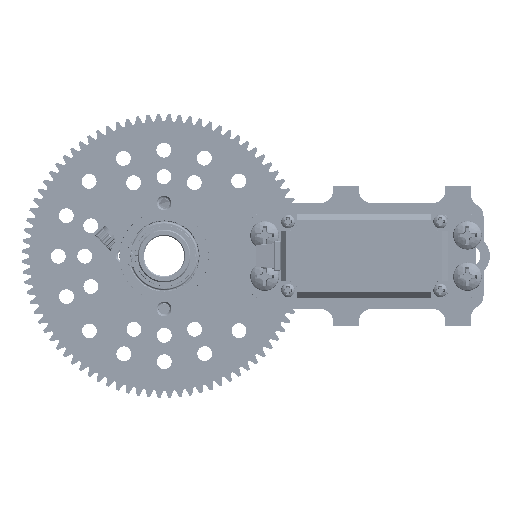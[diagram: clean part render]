
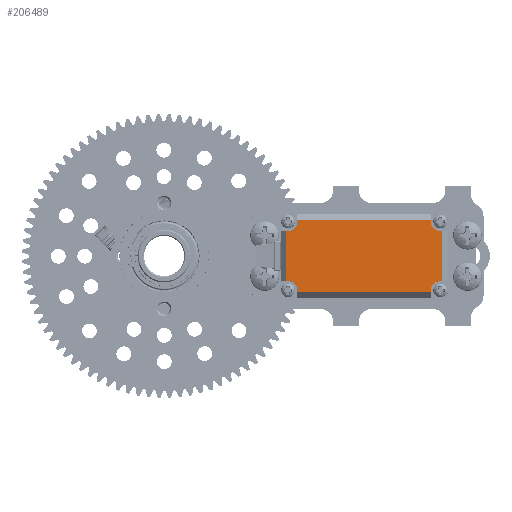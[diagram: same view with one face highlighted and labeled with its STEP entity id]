
A CAD part, front view. The second image highlights one B-rep face of the part: STEP entity #206489.
In plain terms, the highlighted planar face has unit normal (0, -1, 0).
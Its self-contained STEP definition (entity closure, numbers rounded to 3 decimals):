
#563 = CARTESIAN_POINT ( 'NONE',  ( -0.453, -29.566, -21.417 ) ) ;
#1771 = DIRECTION ( 'NONE',  ( 1., 0., 0. ) ) ;
#1969 = EDGE_CURVE ( 'NONE', #152878, #310404, #12326, .T. ) ;
#7502 = CARTESIAN_POINT ( 'NONE',  ( -0.453, -29.566, -12.7 ) ) ;
#8333 = CARTESIAN_POINT ( 'NONE',  ( 15.567, -29.566, -3.983 ) ) ;
#12287 = LINE ( 'NONE', #148633, #121570 ) ;
#12326 = LINE ( 'NONE', #122662, #177847 ) ;
#13602 = LINE ( 'NONE', #563, #228001 ) ;
#16187 = CARTESIAN_POINT ( 'NONE',  ( 17.822, -29.566, -18.7 ) ) ;
#18797 = ORIENTED_EDGE ( 'NONE', *, *, #125637, .T. ) ;
#22323 = VERTEX_POINT ( 'NONE', #204426 ) ;
#23940 = CARTESIAN_POINT ( 'NONE',  ( -16.473, -29.566, -12.7 ) ) ;
#24247 = EDGE_CURVE ( 'NONE', #310404, #226598, #89065, .T. ) ;
#24530 = CARTESIAN_POINT ( 'NONE',  ( 15.567, -29.566, -20.955 ) ) ;
#26956 = CARTESIAN_POINT ( 'NONE',  ( -16.473, -29.566, -21.425 ) ) ;
#28555 = VECTOR ( 'NONE', #240726, 1000. ) ;
#35101 = DIRECTION ( 'NONE',  ( 0., 0., 1. ) ) ;
#36573 = DIRECTION ( 'NONE',  ( 0., 0., 1. ) ) ;
#37453 = ORIENTED_EDGE ( 'NONE', *, *, #24247, .T. ) ;
#43814 = ORIENTED_EDGE ( 'NONE', *, *, #191235, .T. ) ;
#48428 = DIRECTION ( 'NONE',  ( -1., 0., 0. ) ) ;
#51661 = ORIENTED_EDGE ( 'NONE', *, *, #114973, .T. ) ;
#54802 = LINE ( 'NONE', #166172, #28555 ) ;
#55640 = CIRCLE ( 'NONE', #129329, 2.255 ) ;
#58892 = VECTOR ( 'NONE', #48428, 1000. ) ;
#62690 = LINE ( 'NONE', #26956, #198012 ) ;
#64112 = VERTEX_POINT ( 'NONE', #8333 ) ;
#65111 = VECTOR ( 'NONE', #90559, 1000. ) ;
#66545 = EDGE_CURVE ( 'NONE', #306903, #152878, #54802, .T. ) ;
#69781 = DIRECTION ( 'NONE',  ( 0., 0., -1. ) ) ;
#74393 = CARTESIAN_POINT ( 'NONE',  ( 15.567, -29.566, -21.417 ) ) ;
#76107 = VECTOR ( 'NONE', #164756, 1000. ) ;
#78380 = AXIS2_PLACEMENT_3D ( 'NONE', #7502, #175664, #106315 ) ;
#80661 = CARTESIAN_POINT ( 'NONE',  ( -18.729, -29.566, -18.7 ) ) ;
#84657 = VERTEX_POINT ( 'NONE', #89984 ) ;
#88501 = ORIENTED_EDGE ( 'NONE', *, *, #98883, .T. ) ;
#89065 = CIRCLE ( 'NONE', #120511, 2.255 ) ;
#89984 = CARTESIAN_POINT ( 'NONE',  ( 17.822, -29.566, -6.7 ) ) ;
#90559 = DIRECTION ( 'NONE',  ( 1., 0., 0. ) ) ;
#98883 = EDGE_CURVE ( 'NONE', #175459, #215028, #301514, .T. ) ;
#106315 = DIRECTION ( 'NONE',  ( 0., 0., -1. ) ) ;
#107923 = CIRCLE ( 'NONE', #131150, 2.255 ) ;
#110316 = EDGE_CURVE ( 'NONE', #188054, #306903, #166220, .T. ) ;
#114814 = CARTESIAN_POINT ( 'NONE',  ( -0.453, -29.566, -6.7 ) ) ;
#114973 = EDGE_CURVE ( 'NONE', #141753, #209690, #55640, .T. ) ;
#119324 = DIRECTION ( 'NONE',  ( 0., 1., 0. ) ) ;
#120511 = AXIS2_PLACEMENT_3D ( 'NONE', #213665, #186402, #69781 ) ;
#121570 = VECTOR ( 'NONE', #220096, 1000. ) ;
#122662 = CARTESIAN_POINT ( 'NONE',  ( -18.729, -29.566, -18.7 ) ) ;
#125637 = EDGE_CURVE ( 'NONE', #226598, #234520, #62690, .T. ) ;
#129329 = AXIS2_PLACEMENT_3D ( 'NONE', #277284, #303491, #134353 ) ;
#129401 = PLANE ( 'NONE',  #78380 ) ;
#130753 = ORIENTED_EDGE ( 'NONE', *, *, #1969, .T. ) ;
#131150 = AXIS2_PLACEMENT_3D ( 'NONE', #139215, #119324, #164497 ) ;
#133935 = EDGE_CURVE ( 'NONE', #147786, #64112, #282946, .T. ) ;
#134353 = DIRECTION ( 'NONE',  ( 0., 0., -1. ) ) ;
#134664 = CARTESIAN_POINT ( 'NONE',  ( -0.453, -29.566, -18.7 ) ) ;
#139215 = CARTESIAN_POINT ( 'NONE',  ( 17.822, -29.566, -4.445 ) ) ;
#141753 = VERTEX_POINT ( 'NONE', #24530 ) ;
#142089 = DIRECTION ( 'NONE',  ( 0., 0., 1. ) ) ;
#144043 = ORIENTED_EDGE ( 'NONE', *, *, #66545, .T. ) ;
#145080 = ORIENTED_EDGE ( 'NONE', *, *, #258126, .T. ) ;
#147786 = VERTEX_POINT ( 'NONE', #207433 ) ;
#148633 = CARTESIAN_POINT ( 'NONE',  ( 17.822, -29.566, -6.7 ) ) ;
#152878 = VERTEX_POINT ( 'NONE', #177531 ) ;
#154847 = CARTESIAN_POINT ( 'NONE',  ( 18.335, -29.566, -12.7 ) ) ;
#160447 = LINE ( 'NONE', #192253, #58892 ) ;
#164497 = DIRECTION ( 'NONE',  ( 0., 0., -1. ) ) ;
#164756 = DIRECTION ( 'NONE',  ( 0., 0., -1. ) ) ;
#166172 = CARTESIAN_POINT ( 'NONE',  ( -19.241, -29.566, -12.7 ) ) ;
#166220 = LINE ( 'NONE', #114814, #309035 ) ;
#167051 = VECTOR ( 'NONE', #142089, 1000. ) ;
#169980 = ORIENTED_EDGE ( 'NONE', *, *, #274072, .T. ) ;
#171167 = ORIENTED_EDGE ( 'NONE', *, *, #229676, .T. ) ;
#173969 = DIRECTION ( 'NONE',  ( 0., 0., -1. ) ) ;
#175459 = VERTEX_POINT ( 'NONE', #194399 ) ;
#175664 = DIRECTION ( 'NONE',  ( 0., -1., 0. ) ) ;
#177531 = CARTESIAN_POINT ( 'NONE',  ( -19.241, -29.566, -18.7 ) ) ;
#177791 = LINE ( 'NONE', #134664, #65111 ) ;
#177847 = VECTOR ( 'NONE', #1771, 1000. ) ;
#179425 = ORIENTED_EDGE ( 'NONE', *, *, #307605, .T. ) ;
#182394 = CARTESIAN_POINT ( 'NONE',  ( -18.729, -29.566, -6.7 ) ) ;
#186143 = EDGE_CURVE ( 'NONE', #215028, #188054, #272719, .T. ) ;
#186246 = DIRECTION ( 'NONE',  ( 0., 1., 0. ) ) ;
#186402 = DIRECTION ( 'NONE',  ( 0., 1., 0. ) ) ;
#188054 = VERTEX_POINT ( 'NONE', #182394 ) ;
#191235 = EDGE_CURVE ( 'NONE', #234520, #197038, #13602, .T. ) ;
#192253 = CARTESIAN_POINT ( 'NONE',  ( -0.453, -29.566, -3.983 ) ) ;
#194399 = CARTESIAN_POINT ( 'NONE',  ( -16.473, -29.566, -3.983 ) ) ;
#196445 = VECTOR ( 'NONE', #36573, 1000. ) ;
#197038 = VERTEX_POINT ( 'NONE', #74393 ) ;
#198012 = VECTOR ( 'NONE', #173969, 1000. ) ;
#202705 = EDGE_CURVE ( 'NONE', #197038, #141753, #294775, .T. ) ;
#203595 = CARTESIAN_POINT ( 'NONE',  ( 15.567, -29.566, -3.975 ) ) ;
#204137 = EDGE_CURVE ( 'NONE', #22323, #84657, #12287, .T. ) ;
#204157 = CARTESIAN_POINT ( 'NONE',  ( 18.335, -29.566, -18.7 ) ) ;
#204426 = CARTESIAN_POINT ( 'NONE',  ( 18.335, -29.566, -6.7 ) ) ;
#204629 = FACE_OUTER_BOUND ( 'NONE', #282897, .T. ) ;
#206489 = ADVANCED_FACE ( 'NONE', ( #204629 ), #129401, .T. ) ;
#207433 = CARTESIAN_POINT ( 'NONE',  ( 15.567, -29.566, -4.445 ) ) ;
#209314 = DIRECTION ( 'NONE',  ( 0., 0., -1. ) ) ;
#209690 = VERTEX_POINT ( 'NONE', #16187 ) ;
#213554 = CARTESIAN_POINT ( 'NONE',  ( 15.567, -29.566, -12.7 ) ) ;
#213605 = CARTESIAN_POINT ( 'NONE',  ( -16.473, -29.566, -4.445 ) ) ;
#213665 = CARTESIAN_POINT ( 'NONE',  ( -18.729, -29.566, -20.955 ) ) ;
#215028 = VERTEX_POINT ( 'NONE', #213605 ) ;
#216177 = ORIENTED_EDGE ( 'NONE', *, *, #133935, .T. ) ;
#220096 = DIRECTION ( 'NONE',  ( -1., 0., 0. ) ) ;
#222556 = ORIENTED_EDGE ( 'NONE', *, *, #204137, .T. ) ;
#226598 = VERTEX_POINT ( 'NONE', #278458 ) ;
#228001 = VECTOR ( 'NONE', #236010, 1000. ) ;
#228110 = VERTEX_POINT ( 'NONE', #204157 ) ;
#229676 = EDGE_CURVE ( 'NONE', #228110, #22323, #247782, .T. ) ;
#232492 = CARTESIAN_POINT ( 'NONE',  ( -18.729, -29.566, -4.445 ) ) ;
#233014 = AXIS2_PLACEMENT_3D ( 'NONE', #232492, #186246, #209314 ) ;
#234520 = VERTEX_POINT ( 'NONE', #255919 ) ;
#236010 = DIRECTION ( 'NONE',  ( 1., 0., 0. ) ) ;
#240726 = DIRECTION ( 'NONE',  ( 0., 0., -1. ) ) ;
#247782 = LINE ( 'NONE', #154847, #308021 ) ;
#248757 = ORIENTED_EDGE ( 'NONE', *, *, #202705, .T. ) ;
#255919 = CARTESIAN_POINT ( 'NONE',  ( -16.473, -29.566, -21.417 ) ) ;
#258126 = EDGE_CURVE ( 'NONE', #209690, #228110, #177791, .T. ) ;
#272719 = CIRCLE ( 'NONE', #233014, 2.255 ) ;
#274072 = EDGE_CURVE ( 'NONE', #84657, #147786, #107923, .T. ) ;
#277284 = CARTESIAN_POINT ( 'NONE',  ( 17.822, -29.566, -20.955 ) ) ;
#277933 = ORIENTED_EDGE ( 'NONE', *, *, #186143, .T. ) ;
#278458 = CARTESIAN_POINT ( 'NONE',  ( -16.473, -29.566, -20.955 ) ) ;
#282876 = DIRECTION ( 'NONE',  ( -1., 0., 0. ) ) ;
#282897 = EDGE_LOOP ( 'NONE', ( #37453, #18797, #43814, #248757, #51661, #145080, #171167, #222556, #169980, #216177, #179425, #88501, #277933, #298323, #144043, #130753 ) ) ;
#282946 = LINE ( 'NONE', #203595, #196445 ) ;
#283936 = CARTESIAN_POINT ( 'NONE',  ( -19.241, -29.566, -6.7 ) ) ;
#294775 = LINE ( 'NONE', #213554, #167051 ) ;
#298323 = ORIENTED_EDGE ( 'NONE', *, *, #110316, .T. ) ;
#301514 = LINE ( 'NONE', #23940, #76107 ) ;
#303491 = DIRECTION ( 'NONE',  ( 0., 1., 0. ) ) ;
#306903 = VERTEX_POINT ( 'NONE', #283936 ) ;
#307605 = EDGE_CURVE ( 'NONE', #64112, #175459, #160447, .T. ) ;
#308021 = VECTOR ( 'NONE', #35101, 1000. ) ;
#309035 = VECTOR ( 'NONE', #282876, 1000. ) ;
#310404 = VERTEX_POINT ( 'NONE', #80661 ) ;
